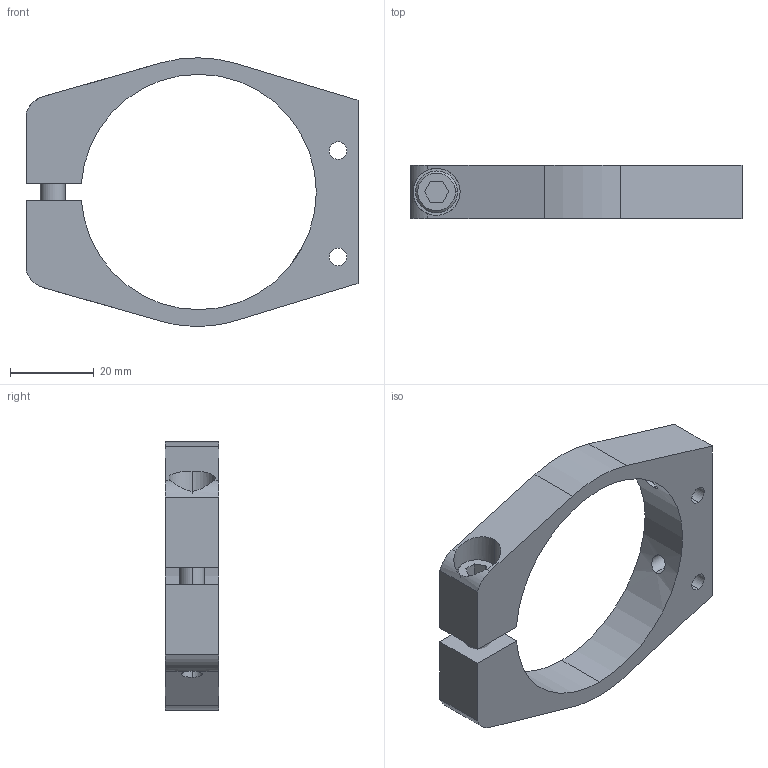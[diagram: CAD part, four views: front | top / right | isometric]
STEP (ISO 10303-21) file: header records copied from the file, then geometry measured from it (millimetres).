
FILE_DESCRIPTION (( 'STEP AP214' ), '1' );
FILE_NAME ('RTI-NM-SPT30.STEP', '2013-10-22T14:24:05', ( 'user' ), ( '' ), 'SwSTEP 2.0', 'SolidWorks 2009', '' );
FILE_SCHEMA (( 'AUTOMOTIVE_DESIGN' ));
Length unit declared in the file: inch
Products named in the file (4): RTI-NM-56-B; M6 WASHER; M6 S.H.C.S._M6x30mm; RTI-NM-SPT30
Assembly tree (3 placements, depth 2):
  RTI-NM-SPT30
    RTI-NM-56-B
    M6 WASHER
    M6 S.H.C.S._M6x30mm
Bounding box: 79.38 x 12.7 x 64.18 mm (x, y, z)
Volume: 21771.9 mm3; surface area: 11818 mm2
Topology: 3 solids, 3 shells, 381 faces, 998 edges, 664 vertices
Faces by surface type: plane 244, bspline 102, cylinder 30, cone 5
Entity records: 22165 total; most frequent: CARTESIAN_POINT 9104, ORIENTED_EDGE 1996, DIRECTION 1409, EDGE_CURVE 998, VECTOR 723, LINE 723, VERTEX_POINT 664, EDGE_LOOP 436
